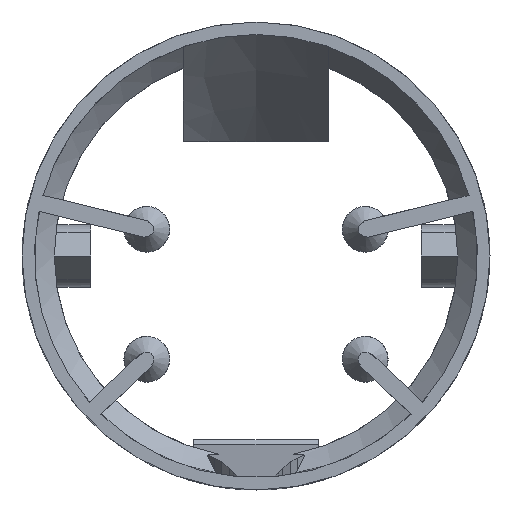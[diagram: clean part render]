
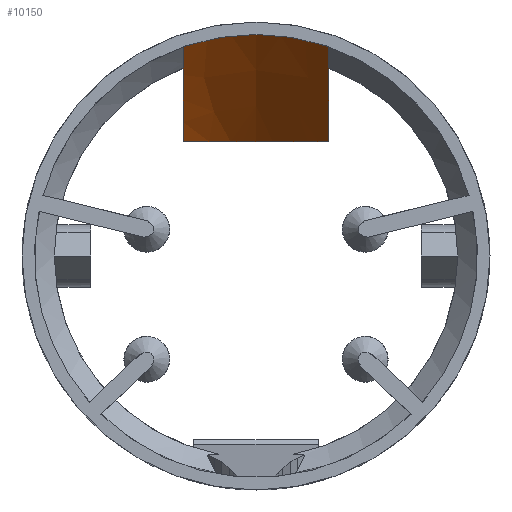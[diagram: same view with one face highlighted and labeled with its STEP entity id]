
A CAD part, left-side view. The second image highlights one B-rep face of the part: STEP entity #10150.
In plain terms, the highlighted conical face has half-angle 40 degrees and reference radius 21.3 mm.
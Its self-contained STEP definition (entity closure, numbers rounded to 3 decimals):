
#1301 = CYLINDRICAL_SURFACE('',#1302,21.3);
#1302 = AXIS2_PLACEMENT_3D('',#1303,#1304,#1305);
#1303 = CARTESIAN_POINT('',(29.,0.,0.));
#1304 = DIRECTION('',(1.,0.,0.));
#1305 = DIRECTION('',(-0.,0.,1.));
#4362 = VERTEX_POINT('',#4363);
#4363 = CARTESIAN_POINT('',(35.225,0.,21.3));
#4384 = EDGE_CURVE('',#4385,#4362,#4387,.T.);
#4385 = VERTEX_POINT('',#4386);
#4386 = CARTESIAN_POINT('',(35.225,7.,20.117));
#4387 = SURFACE_CURVE('',#4388,(#4393,#4400),.PCURVE_S1.);
#4388 = CIRCLE('',#4389,21.3);
#4389 = AXIS2_PLACEMENT_3D('',#4390,#4391,#4392);
#4390 = CARTESIAN_POINT('',(35.225,0.,0.));
#4391 = DIRECTION('',(1.,0.,0.));
#4392 = DIRECTION('',(-0.,1.,0.));
#4393 = PCURVE('',#1301,#4394);
#4394 = DEFINITIONAL_REPRESENTATION('',(#4395),#4399);
#4395 = LINE('',#4396,#4397);
#4396 = CARTESIAN_POINT('',(4.712,6.225));
#4397 = VECTOR('',#4398,1.);
#4398 = DIRECTION('',(1.,0.));
#4399 = ( GEOMETRIC_REPRESENTATION_CONTEXT(2) 
PARAMETRIC_REPRESENTATION_CONTEXT() REPRESENTATION_CONTEXT('2D SPACE',''
  ) );
#4400 = PCURVE('',#4401,#4406);
#4401 = CONICAL_SURFACE('',#4402,21.3,0.698);
#4402 = AXIS2_PLACEMENT_3D('',#4403,#4404,#4405);
#4403 = CARTESIAN_POINT('',(35.225,0.,0.));
#4404 = DIRECTION('',(-1.,-0.,-0.));
#4405 = DIRECTION('',(-0.,1.,0.));
#4406 = DEFINITIONAL_REPRESENTATION('',(#4407),#4411);
#4407 = LINE('',#4408,#4409);
#4408 = CARTESIAN_POINT('',(-0.,-0.));
#4409 = VECTOR('',#4410,1.);
#4410 = DIRECTION('',(-1.,-0.));
#4411 = ( GEOMETRIC_REPRESENTATION_CONTEXT(2) 
PARAMETRIC_REPRESENTATION_CONTEXT() REPRESENTATION_CONTEXT('2D SPACE',''
  ) );
#4428 = PLANE('',#4429);
#4429 = AXIS2_PLACEMENT_3D('',#4430,#4431,#4432);
#4430 = CARTESIAN_POINT('',(34.225,7.,11.));
#4431 = DIRECTION('',(-0.,1.,0.));
#4432 = DIRECTION('',(0.,0.,1.));
#5110 = VERTEX_POINT('',#5111);
#5111 = CARTESIAN_POINT('',(35.225,-7.,20.117));
#5124 = PLANE('',#5125);
#5125 = AXIS2_PLACEMENT_3D('',#5126,#5127,#5128);
#5126 = CARTESIAN_POINT('',(34.225,-7.,11.));
#5127 = DIRECTION('',(-0.,1.,0.));
#5128 = DIRECTION('',(0.,0.,1.));
#5135 = EDGE_CURVE('',#4362,#5110,#5136,.T.);
#5136 = SURFACE_CURVE('',#5137,(#5142,#5149),.PCURVE_S1.);
#5137 = CIRCLE('',#5138,21.3);
#5138 = AXIS2_PLACEMENT_3D('',#5139,#5140,#5141);
#5139 = CARTESIAN_POINT('',(35.225,0.,0.));
#5140 = DIRECTION('',(1.,0.,0.));
#5141 = DIRECTION('',(-0.,1.,0.));
#5142 = PCURVE('',#1301,#5143);
#5143 = DEFINITIONAL_REPRESENTATION('',(#5144),#5148);
#5144 = LINE('',#5145,#5146);
#5145 = CARTESIAN_POINT('',(-1.571,6.225));
#5146 = VECTOR('',#5147,1.);
#5147 = DIRECTION('',(1.,0.));
#5148 = ( GEOMETRIC_REPRESENTATION_CONTEXT(2) 
PARAMETRIC_REPRESENTATION_CONTEXT() REPRESENTATION_CONTEXT('2D SPACE',''
  ) );
#5149 = PCURVE('',#4401,#5150);
#5150 = DEFINITIONAL_REPRESENTATION('',(#5151),#5155);
#5151 = LINE('',#5152,#5153);
#5152 = CARTESIAN_POINT('',(-0.,-0.));
#5153 = VECTOR('',#5154,1.);
#5154 = DIRECTION('',(-1.,-0.));
#5155 = ( GEOMETRIC_REPRESENTATION_CONTEXT(2) 
PARAMETRIC_REPRESENTATION_CONTEXT() REPRESENTATION_CONTEXT('2D SPACE',''
  ) );
#5177 = VERTEX_POINT('',#5178);
#5178 = CARTESIAN_POINT('',(45.071,-7.,11.));
#5194 = PLANE('',#5195);
#5195 = AXIS2_PLACEMENT_3D('',#5196,#5197,#5198);
#5196 = CARTESIAN_POINT('',(34.225,-7.,11.));
#5197 = DIRECTION('',(0.,0.,1.));
#5198 = DIRECTION('',(1.,0.,-0.));
#5206 = EDGE_CURVE('',#5177,#5110,#5207,.T.);
#5207 = SURFACE_CURVE('',#5208,(#5213,#5220),.PCURVE_S1.);
#5208 = HYPERBOLA('',#5209,8.342,7.);
#5209 = AXIS2_PLACEMENT_3D('',#5210,#5211,#5212);
#5210 = CARTESIAN_POINT('',(60.609,-7.,0.));
#5211 = DIRECTION('',(0.,1.,0.));
#5212 = DIRECTION('',(-1.,0.,-0.));
#5213 = PCURVE('',#5124,#5214);
#5214 = DEFINITIONAL_REPRESENTATION('',(#5215),#5219);
#5215 = ( BOUNDED_CURVE() B_SPLINE_CURVE(2,(#5216,#5217,#5218),
.UNSPECIFIED.,.F.,.F.) B_SPLINE_CURVE_WITH_KNOTS((3,3),(1.134,
1.778),.PIECEWISE_BEZIER_KNOTS.) CURVE() 
GEOMETRIC_REPRESENTATION_ITEM() RATIONAL_B_SPLINE_CURVE((1.,
1.052,1.)) REPRESENTATION_ITEM('') );
#5216 = CARTESIAN_POINT('',(-1.25,12.08));
#5217 = CARTESIAN_POINT('',(2.486,8.463));
#5218 = CARTESIAN_POINT('',(9.117,1.));
#5219 = ( GEOMETRIC_REPRESENTATION_CONTEXT(2) 
PARAMETRIC_REPRESENTATION_CONTEXT() REPRESENTATION_CONTEXT('2D SPACE',''
  ) );
#5220 = PCURVE('',#4401,#5221);
#5221 = DEFINITIONAL_REPRESENTATION('',(#5222),#5230);
#5222 = B_SPLINE_CURVE_WITH_KNOTS('',6,(#5223,#5224,#5225,#5226,#5227,
    #5228,#5229),.UNSPECIFIED.,.F.,.F.,(7,7),(1.134,
    1.778),.PIECEWISE_BEZIER_KNOTS.);
#5223 = CARTESIAN_POINT('',(-2.193,-11.08));
#5224 = CARTESIAN_POINT('',(-2.131,-9.833));
#5225 = CARTESIAN_POINT('',(-2.075,-8.388));
#5226 = CARTESIAN_POINT('',(-2.025,-6.72));
#5227 = CARTESIAN_POINT('',(-1.98,-4.795));
#5228 = CARTESIAN_POINT('',(-1.941,-2.573));
#5229 = CARTESIAN_POINT('',(-1.906,0.));
#5230 = ( GEOMETRIC_REPRESENTATION_CONTEXT(2) 
PARAMETRIC_REPRESENTATION_CONTEXT() REPRESENTATION_CONTEXT('2D SPACE',''
  ) );
#9727 = VERTEX_POINT('',#9728);
#9728 = CARTESIAN_POINT('',(45.071,7.,11.));
#9749 = EDGE_CURVE('',#9727,#9750,#9752,.T.);
#9750 = VERTEX_POINT('',#9751);
#9751 = CARTESIAN_POINT('',(47.5,0.,11.));
#9752 = SURFACE_CURVE('',#9753,(#9758,#9765),.PCURVE_S1.);
#9753 = HYPERBOLA('',#9754,13.109,11.);
#9754 = AXIS2_PLACEMENT_3D('',#9755,#9756,#9757);
#9755 = CARTESIAN_POINT('',(60.609,0.,11.));
#9756 = DIRECTION('',(0.,0.,1.));
#9757 = DIRECTION('',(-1.,0.,0.));
#9758 = PCURVE('',#5194,#9759);
#9759 = DEFINITIONAL_REPRESENTATION('',(#9760),#9764);
#9760 = ( BOUNDED_CURVE() B_SPLINE_CURVE(2,(#9761,#9762,#9763),
.UNSPECIFIED.,.F.,.F.) B_SPLINE_CURVE_WITH_KNOTS((3,3),(-0.704,
0.),.PIECEWISE_BEZIER_KNOTS.) CURVE() 
GEOMETRIC_REPRESENTATION_ITEM() RATIONAL_B_SPLINE_CURVE((1.,
1.063,1.)) REPRESENTATION_ITEM('') );
#9761 = CARTESIAN_POINT('',(9.89,15.4));
#9762 = CARTESIAN_POINT('',(13.275,10.72));
#9763 = CARTESIAN_POINT('',(13.275,7.));
#9764 = ( GEOMETRIC_REPRESENTATION_CONTEXT(2) 
PARAMETRIC_REPRESENTATION_CONTEXT() REPRESENTATION_CONTEXT('2D SPACE',''
  ) );
#9765 = PCURVE('',#4401,#9766);
#9766 = DEFINITIONAL_REPRESENTATION('',(#9767),#9775);
#9767 = B_SPLINE_CURVE_WITH_KNOTS('',6,(#9768,#9769,#9770,#9771,#9772,
    #9773,#9774),.UNSPECIFIED.,.F.,.F.,(7,7),(-0.704,
    0.),.PIECEWISE_BEZIER_KNOTS.);
#9768 = CARTESIAN_POINT('',(-0.919,-8.89));
#9769 = CARTESIAN_POINT('',(-1.012,-10.064));
#9770 = CARTESIAN_POINT('',(-1.113,-10.967));
#9771 = CARTESIAN_POINT('',(-1.222,-11.625));
#9772 = CARTESIAN_POINT('',(-1.336,-12.058));
#9773 = CARTESIAN_POINT('',(-1.453,-12.275));
#9774 = CARTESIAN_POINT('',(-1.571,-12.275));
#9775 = ( GEOMETRIC_REPRESENTATION_CONTEXT(2) 
PARAMETRIC_REPRESENTATION_CONTEXT() REPRESENTATION_CONTEXT('2D SPACE',''
  ) );
#9777 = EDGE_CURVE('',#9750,#5177,#9778,.T.);
#9778 = SURFACE_CURVE('',#9779,(#9784,#9791),.PCURVE_S1.);
#9779 = HYPERBOLA('',#9780,13.109,11.);
#9780 = AXIS2_PLACEMENT_3D('',#9781,#9782,#9783);
#9781 = CARTESIAN_POINT('',(60.609,0.,11.));
#9782 = DIRECTION('',(0.,0.,1.));
#9783 = DIRECTION('',(-1.,0.,0.));
#9784 = PCURVE('',#5194,#9785);
#9785 = DEFINITIONAL_REPRESENTATION('',(#9786),#9790);
#9786 = ( BOUNDED_CURVE() B_SPLINE_CURVE(2,(#9787,#9788,#9789),
.UNSPECIFIED.,.F.,.F.) B_SPLINE_CURVE_WITH_KNOTS((3,3),(
0.,0.704),.PIECEWISE_BEZIER_KNOTS.) CURVE() 
GEOMETRIC_REPRESENTATION_ITEM() RATIONAL_B_SPLINE_CURVE((1.,
1.063,1.)) REPRESENTATION_ITEM('') );
#9787 = CARTESIAN_POINT('',(13.275,7.));
#9788 = CARTESIAN_POINT('',(13.275,3.28));
#9789 = CARTESIAN_POINT('',(9.89,-1.4));
#9790 = ( GEOMETRIC_REPRESENTATION_CONTEXT(2) 
PARAMETRIC_REPRESENTATION_CONTEXT() REPRESENTATION_CONTEXT('2D SPACE',''
  ) );
#9791 = PCURVE('',#4401,#9792);
#9792 = DEFINITIONAL_REPRESENTATION('',(#9793),#9801);
#9793 = B_SPLINE_CURVE_WITH_KNOTS('',6,(#9794,#9795,#9796,#9797,#9798,
    #9799,#9800),.UNSPECIFIED.,.F.,.F.,(7,7),(0.,
    0.704),.PIECEWISE_BEZIER_KNOTS.);
#9794 = CARTESIAN_POINT('',(-1.571,-12.275));
#9795 = CARTESIAN_POINT('',(-1.688,-12.275));
#9796 = CARTESIAN_POINT('',(-1.805,-12.058));
#9797 = CARTESIAN_POINT('',(-1.92,-11.625));
#9798 = CARTESIAN_POINT('',(-2.028,-10.967));
#9799 = CARTESIAN_POINT('',(-2.13,-10.064));
#9800 = CARTESIAN_POINT('',(-2.223,-8.89));
#9801 = ( GEOMETRIC_REPRESENTATION_CONTEXT(2) 
PARAMETRIC_REPRESENTATION_CONTEXT() REPRESENTATION_CONTEXT('2D SPACE',''
  ) );
#10121 = EDGE_CURVE('',#9727,#4385,#10122,.T.);
#10122 = SURFACE_CURVE('',#10123,(#10128,#10135),.PCURVE_S1.);
#10123 = HYPERBOLA('',#10124,8.342,7.);
#10124 = AXIS2_PLACEMENT_3D('',#10125,#10126,#10127);
#10125 = CARTESIAN_POINT('',(60.609,7.,0.));
#10126 = DIRECTION('',(0.,1.,0.));
#10127 = DIRECTION('',(-1.,0.,-0.));
#10128 = PCURVE('',#4428,#10129);
#10129 = DEFINITIONAL_REPRESENTATION('',(#10130),#10134);
#10130 = ( BOUNDED_CURVE() B_SPLINE_CURVE(2,(#10131,#10132,#10133),
.UNSPECIFIED.,.F.,.F.) B_SPLINE_CURVE_WITH_KNOTS((3,3),(1.134,
1.778),.PIECEWISE_BEZIER_KNOTS.) CURVE() 
GEOMETRIC_REPRESENTATION_ITEM() RATIONAL_B_SPLINE_CURVE((1.,
1.052,1.)) REPRESENTATION_ITEM('') );
#10131 = CARTESIAN_POINT('',(-1.25,12.08));
#10132 = CARTESIAN_POINT('',(2.486,8.463));
#10133 = CARTESIAN_POINT('',(9.117,1.));
#10134 = ( GEOMETRIC_REPRESENTATION_CONTEXT(2) 
PARAMETRIC_REPRESENTATION_CONTEXT() REPRESENTATION_CONTEXT('2D SPACE',''
  ) );
#10135 = PCURVE('',#4401,#10136);
#10136 = DEFINITIONAL_REPRESENTATION('',(#10137),#10145);
#10137 = B_SPLINE_CURVE_WITH_KNOTS('',6,(#10138,#10139,#10140,#10141,
    #10142,#10143,#10144),.UNSPECIFIED.,.F.,.F.,(7,7),(1.134,
    1.778),.PIECEWISE_BEZIER_KNOTS.);
#10138 = CARTESIAN_POINT('',(-0.948,-11.08));
#10139 = CARTESIAN_POINT('',(-1.011,-9.833));
#10140 = CARTESIAN_POINT('',(-1.067,-8.388));
#10141 = CARTESIAN_POINT('',(-1.117,-6.72));
#10142 = CARTESIAN_POINT('',(-1.161,-4.795));
#10143 = CARTESIAN_POINT('',(-1.201,-2.573));
#10144 = CARTESIAN_POINT('',(-1.236,0.));
#10145 = ( GEOMETRIC_REPRESENTATION_CONTEXT(2) 
PARAMETRIC_REPRESENTATION_CONTEXT() REPRESENTATION_CONTEXT('2D SPACE',''
  ) );
#10150 = ADVANCED_FACE('',(#10151),#4401,.F.);
#10151 = FACE_BOUND('',#10152,.F.);
#10152 = EDGE_LOOP('',(#10153,#10154,#10155,#10156,#10157,#10158));
#10153 = ORIENTED_EDGE('',*,*,#10121,.T.);
#10154 = ORIENTED_EDGE('',*,*,#4384,.T.);
#10155 = ORIENTED_EDGE('',*,*,#5135,.T.);
#10156 = ORIENTED_EDGE('',*,*,#5206,.F.);
#10157 = ORIENTED_EDGE('',*,*,#9777,.F.);
#10158 = ORIENTED_EDGE('',*,*,#9749,.F.);
